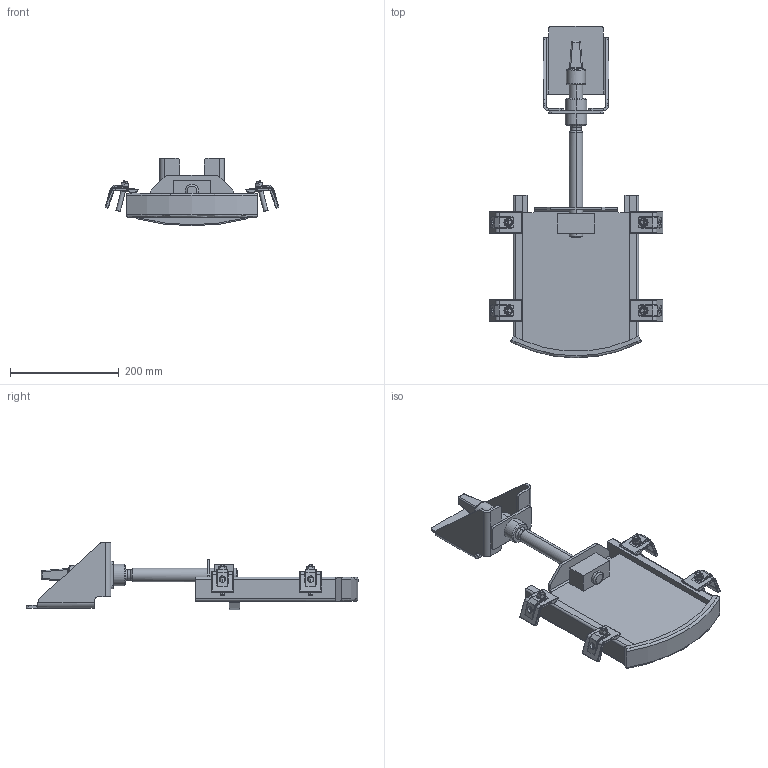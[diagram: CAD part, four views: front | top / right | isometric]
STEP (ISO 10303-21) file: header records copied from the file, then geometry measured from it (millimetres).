
FILE_DESCRIPTION (( 'STEP AP214' ), '1' );
FILE_NAME ('LW 150 Schacht800 betoniert.STEP', '2022-05-19T06:14:55', ( '' ), ( '' ), 'SwSTEP 2.0', 'SolidWorks 2021', '' );
FILE_SCHEMA (( 'AUTOMOTIVE_DESIGN' ));
Length unit declared in the file: millimetre
Products named in the file (1): LW 150 Schacht800 betoniert
Bounding box: 319.35 x 610 x 124.32 mm (x, y, z)
Volume: 1511160.9 mm3; surface area: 428639.2 mm2
Topology: 1 solids, 6 shells, 799 faces, 1880 edges, 1068 vertices
Faces by surface type: cylinder 309, plane 252, cone 62, sphere 60, bspline 60, torus 56
Entity records: 33267 total; most frequent: CARTESIAN_POINT 6904, DIRECTION 3774, ORIENTED_EDGE 3640, EDGE_CURVE 1820, AXIS2_PLACEMENT_3D 1482, VERTEX_POINT 1060, EDGE_LOOP 856, VECTOR 810
